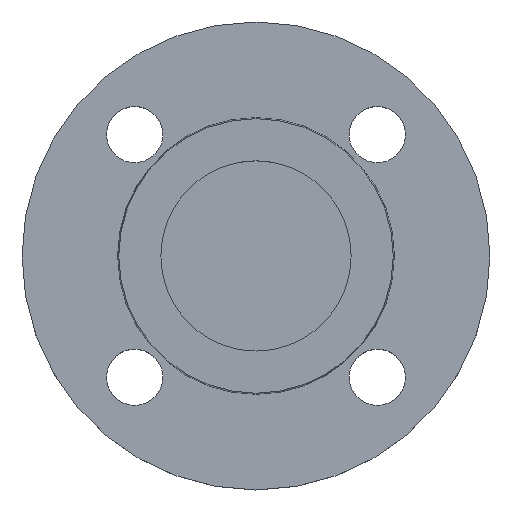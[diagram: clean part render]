
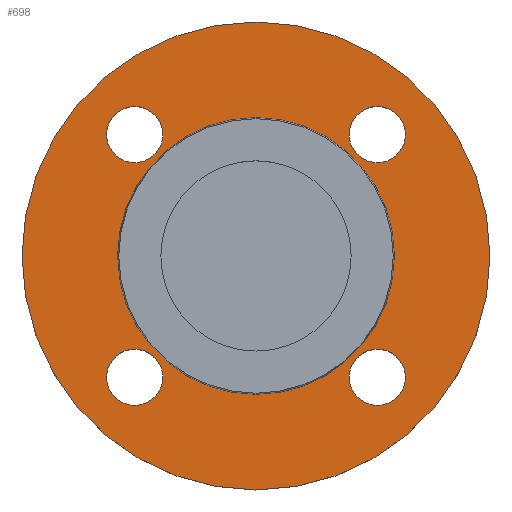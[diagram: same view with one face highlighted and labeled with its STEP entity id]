
A CAD part, top view. The second image highlights one B-rep face of the part: STEP entity #698.
In plain terms, the highlighted planar face has unit normal (0, 0, 1).
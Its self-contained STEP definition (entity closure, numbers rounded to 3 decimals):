
#6 = AXIS2_PLACEMENT_3D ( 'NONE', #721, #722, #724 ) ;
#12 = AXIS2_PLACEMENT_3D ( 'NONE', #110, #259, #274 ) ;
#13 = CIRCLE ( 'NONE', #12, 75. ) ;
#30 = AXIS2_PLACEMENT_3D ( 'NONE', #511, #455, #447 ) ;
#39 = CIRCLE ( 'NONE', #30, 44.353 ) ;
#45 = AXIS2_PLACEMENT_3D ( 'NONE', #273, #85, #66 ) ;
#46 = EDGE_CURVE ( 'NONE', #334, #504, #112, .T. ) ;
#60 = AXIS2_PLACEMENT_3D ( 'NONE', #185, #188, #189 ) ;
#66 = DIRECTION ( 'NONE',  ( 1., 0., 0. ) ) ;
#68 = DIRECTION ( 'NONE',  ( 0., 0., -1. ) ) ;
#73 = DIRECTION ( 'NONE',  ( 1., 0., 0. ) ) ;
#75 = CARTESIAN_POINT ( 'NONE',  ( -38.891, -38.891, -2. ) ) ;
#80 = DIRECTION ( 'NONE',  ( 0., 0., -1. ) ) ;
#85 = DIRECTION ( 'NONE',  ( 0., 0., -1. ) ) ;
#87 = CIRCLE ( 'NONE', #6, 9. ) ;
#93 = CIRCLE ( 'NONE', #283, 44.353 ) ;
#96 = DIRECTION ( 'NONE',  ( 1., 0., 0. ) ) ;
#110 = CARTESIAN_POINT ( 'NONE',  ( 0., 0., -2. ) ) ;
#112 = CIRCLE ( 'NONE', #295, 9. ) ;
#115 = CIRCLE ( 'NONE', #119, 9. ) ;
#119 = AXIS2_PLACEMENT_3D ( 'NONE', #627, #341, #446 ) ;
#121 = EDGE_CURVE ( 'NONE', #371, #507, #93, .T. ) ;
#125 = AXIS2_PLACEMENT_3D ( 'NONE', #388, #130, #96 ) ;
#130 = DIRECTION ( 'NONE',  ( 0., 0., 1. ) ) ;
#134 = DIRECTION ( 'NONE',  ( -1., 0., 0. ) ) ;
#136 = DIRECTION ( 'NONE',  ( 0., 0., -1. ) ) ;
#138 = CARTESIAN_POINT ( 'NONE',  ( 0., 0., -2. ) ) ;
#147 = CARTESIAN_POINT ( 'NONE',  ( -47.891, -38.891, -2. ) ) ;
#148 = CARTESIAN_POINT ( 'NONE',  ( 29.891, 38.891, -2. ) ) ;
#149 = AXIS2_PLACEMENT_3D ( 'NONE', #610, #611, #612 ) ;
#158 = AXIS2_PLACEMENT_3D ( 'NONE', #138, #136, #134 ) ;
#162 = CARTESIAN_POINT ( 'NONE',  ( -75., 0., -2. ) ) ;
#167 = CARTESIAN_POINT ( 'NONE',  ( -29.891, 38.891, -2. ) ) ;
#173 = EDGE_CURVE ( 'NONE', #356, #514, #186, .T. ) ;
#174 = CARTESIAN_POINT ( 'NONE',  ( 44.353, 0., -2. ) ) ;
#177 = CARTESIAN_POINT ( 'NONE',  ( 47.891, -38.891, -2. ) ) ;
#185 = CARTESIAN_POINT ( 'NONE',  ( 38.891, 38.891, -2. ) ) ;
#186 = CIRCLE ( 'NONE', #149, 9. ) ;
#188 = DIRECTION ( 'NONE',  ( 0., 0., -1. ) ) ;
#189 = DIRECTION ( 'NONE',  ( 1., 0., 0. ) ) ;
#218 = CARTESIAN_POINT ( 'NONE',  ( -29.891, -38.891, -2. ) ) ;
#220 = CARTESIAN_POINT ( 'NONE',  ( 47.891, 38.891, -2. ) ) ;
#222 = CARTESIAN_POINT ( 'NONE',  ( -44.353, 0., -2. ) ) ;
#231 = CARTESIAN_POINT ( 'NONE',  ( -47.891, 38.891, -2. ) ) ;
#235 = CARTESIAN_POINT ( 'NONE',  ( 29.891, -38.891, -2. ) ) ;
#236 = CARTESIAN_POINT ( 'NONE',  ( 75., 0., -2. ) ) ;
#259 = DIRECTION ( 'NONE',  ( 0., 0., -1. ) ) ;
#273 = CARTESIAN_POINT ( 'NONE',  ( 38.891, -38.891, -2. ) ) ;
#274 = DIRECTION ( 'NONE',  ( -1., 0., 0. ) ) ;
#283 = AXIS2_PLACEMENT_3D ( 'NONE', #594, #595, #596 ) ;
#289 = CIRCLE ( 'NONE', #158, 75. ) ;
#295 = AXIS2_PLACEMENT_3D ( 'NONE', #575, #576, #577 ) ;
#296 = AXIS2_PLACEMENT_3D ( 'NONE', #75, #68, #73 ) ;
#303 = CIRCLE ( 'NONE', #45, 9. ) ;
#319 = EDGE_CURVE ( 'NONE', #514, #356, #87, .T. ) ;
#327 = EDGE_LOOP ( 'NONE', ( #431, #432 ) ) ;
#333 = VERTEX_POINT ( 'NONE', #147 ) ;
#334 = VERTEX_POINT ( 'NONE', #148 ) ;
#341 = DIRECTION ( 'NONE',  ( 0., 0., -1. ) ) ;
#344 = EDGE_LOOP ( 'NONE', ( #419, #422 ) ) ;
#346 = VERTEX_POINT ( 'NONE', #162 ) ;
#354 = CIRCLE ( 'NONE', #649, 9. ) ;
#356 = VERTEX_POINT ( 'NONE', #167 ) ;
#371 = VERTEX_POINT ( 'NONE', #174 ) ;
#388 = CARTESIAN_POINT ( 'NONE',  ( 44.353, 0., -2. ) ) ;
#389 = VERTEX_POINT ( 'NONE', #177 ) ;
#409 = EDGE_CURVE ( 'NONE', #504, #334, #472, .T. ) ;
#414 = PLANE ( 'NONE',  #125 ) ;
#419 = ORIENTED_EDGE ( 'NONE', *, *, #625, .T. ) ;
#420 = FACE_OUTER_BOUND ( 'NONE', #506, .T. ) ;
#421 = FACE_BOUND ( 'NONE', #327, .T. ) ;
#422 = ORIENTED_EDGE ( 'NONE', *, *, #696, .T. ) ;
#423 = ORIENTED_EDGE ( 'NONE', *, *, #628, .T. ) ;
#424 = ORIENTED_EDGE ( 'NONE', *, *, #565, .T. ) ;
#425 = ORIENTED_EDGE ( 'NONE', *, *, #173, .T. ) ;
#426 = ORIENTED_EDGE ( 'NONE', *, *, #319, .T. ) ;
#427 = FACE_BOUND ( 'NONE', #600, .T. ) ;
#428 = ORIENTED_EDGE ( 'NONE', *, *, #409, .T. ) ;
#429 = FACE_BOUND ( 'NONE', #503, .T. ) ;
#430 = ORIENTED_EDGE ( 'NONE', *, *, #46, .T. ) ;
#431 = ORIENTED_EDGE ( 'NONE', *, *, #694, .T. ) ;
#432 = ORIENTED_EDGE ( 'NONE', *, *, #121, .T. ) ;
#433 = ORIENTED_EDGE ( 'NONE', *, *, #709, .F. ) ;
#434 = ORIENTED_EDGE ( 'NONE', *, *, #669, .F. ) ;
#435 = FACE_BOUND ( 'NONE', #539, .T. ) ;
#443 = FACE_BOUND ( 'NONE', #344, .T. ) ;
#446 = DIRECTION ( 'NONE',  ( 1., 0., 0. ) ) ;
#447 = DIRECTION ( 'NONE',  ( -1., 0., 0. ) ) ;
#455 = DIRECTION ( 'NONE',  ( 0., 0., -1. ) ) ;
#472 = CIRCLE ( 'NONE', #60, 9. ) ;
#502 = VERTEX_POINT ( 'NONE', #218 ) ;
#503 = EDGE_LOOP ( 'NONE', ( #425, #426 ) ) ;
#504 = VERTEX_POINT ( 'NONE', #220 ) ;
#506 = EDGE_LOOP ( 'NONE', ( #433, #434 ) ) ;
#507 = VERTEX_POINT ( 'NONE', #222 ) ;
#511 = CARTESIAN_POINT ( 'NONE',  ( 0., 0., -2. ) ) ;
#514 = VERTEX_POINT ( 'NONE', #231 ) ;
#518 = VERTEX_POINT ( 'NONE', #235 ) ;
#519 = VERTEX_POINT ( 'NONE', #236 ) ;
#539 = EDGE_LOOP ( 'NONE', ( #423, #424 ) ) ;
#543 = DIRECTION ( 'NONE',  ( 1., 0., 0. ) ) ;
#563 = CARTESIAN_POINT ( 'NONE',  ( -38.891, -38.891, -2. ) ) ;
#565 = EDGE_CURVE ( 'NONE', #333, #502, #674, .T. ) ;
#575 = CARTESIAN_POINT ( 'NONE',  ( 38.891, 38.891, -2. ) ) ;
#576 = DIRECTION ( 'NONE',  ( 0., 0., -1. ) ) ;
#577 = DIRECTION ( 'NONE',  ( 1., 0., 0. ) ) ;
#594 = CARTESIAN_POINT ( 'NONE',  ( 0., 0., -2. ) ) ;
#595 = DIRECTION ( 'NONE',  ( 0., 0., -1. ) ) ;
#596 = DIRECTION ( 'NONE',  ( -1., 0., 0. ) ) ;
#600 = EDGE_LOOP ( 'NONE', ( #428, #430 ) ) ;
#610 = CARTESIAN_POINT ( 'NONE',  ( -38.891, 38.891, -2. ) ) ;
#611 = DIRECTION ( 'NONE',  ( 0., 0., -1. ) ) ;
#612 = DIRECTION ( 'NONE',  ( 1., 0., 0. ) ) ;
#625 = EDGE_CURVE ( 'NONE', #389, #518, #303, .T. ) ;
#627 = CARTESIAN_POINT ( 'NONE',  ( 38.891, -38.891, -2. ) ) ;
#628 = EDGE_CURVE ( 'NONE', #502, #333, #354, .T. ) ;
#649 = AXIS2_PLACEMENT_3D ( 'NONE', #563, #80, #543 ) ;
#669 = EDGE_CURVE ( 'NONE', #346, #519, #13, .T. ) ;
#674 = CIRCLE ( 'NONE', #296, 9. ) ;
#694 = EDGE_CURVE ( 'NONE', #507, #371, #39, .T. ) ;
#696 = EDGE_CURVE ( 'NONE', #518, #389, #115, .T. ) ;
#698 = ADVANCED_FACE ( 'NONE', ( #443, #435, #429, #427, #421, #420 ), #414, .T. ) ;
#709 = EDGE_CURVE ( 'NONE', #519, #346, #289, .T. ) ;
#721 = CARTESIAN_POINT ( 'NONE',  ( -38.891, 38.891, -2. ) ) ;
#722 = DIRECTION ( 'NONE',  ( 0., 0., -1. ) ) ;
#724 = DIRECTION ( 'NONE',  ( 1., 0., 0. ) ) ;
